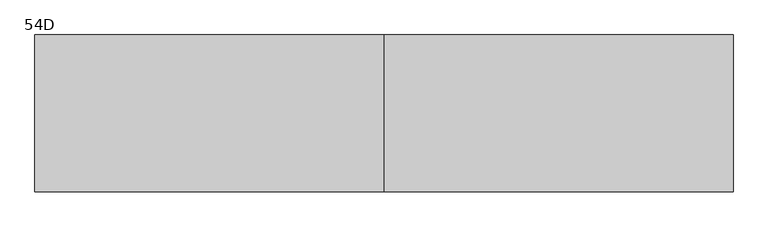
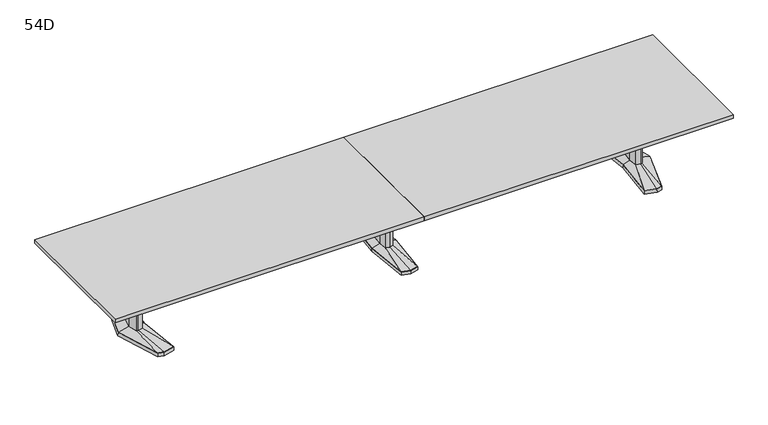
"""IFC4 building model written with IfcOpenShell, lengths in millimetres: furniture geometry, Coalesse_AM_Table_Conference_ETable2_Rectangular_20ft_AluminiumBase : 54D."""

from ifc_helpers import new_model, si_unit, frame, origin, place, context, project, spatial, polyline, outline, extrude, faceted_brep, source, transform, mapped, element, save
from ifc_brep_helpers import plane_surface, spline_surface, advanced_brep


def furniture_54d_72e88866(model_context):
    return source(origin(), model_context, "Body", "SolidModel", [
        faceted_brep([(-81.2333791, -433.8053819, 38.1), (0.0, -455.556576, 38.1), (81.2333791, -433.8053819, 38.1), (119.0564774, 0.0, 38.1), (81.2333791, 433.8053819, 38.1), (0.0, 455.556576, 38.1), (-81.2333791, 433.8053819, 38.1), (-119.0564774, 0.0, 38.1), (-82.7182795, -435.0512063, 3.175), (-120.65, 0.0, 3.175), (-82.7182795, 435.0512063, 3.175), (0.0, 457.2, 3.175), (82.7182795, 435.0512063, 3.175), (120.65, 0.0, 3.175), (82.7182795, -435.0512063, 3.175), (0.0, -457.2, 3.175), (0.0, 429.2617927, 3.175), (-77.9676806, 408.3850278, 3.175), (-74.7019821, 382.9646737, 3.175), (0.0, 402.9670094, 3.175), (74.7019821, 382.9646737, 3.175), (77.9676806, 408.3850278, 3.175), (0.0, -429.2617927, 3.175), (77.9676806, -408.3850278, 3.175), (74.7019821, -382.9646737, 3.175), (0.0, -402.9670094, 3.175), (-74.7019821, -382.9646737, 3.175), (-77.9676806, -408.3850278, 3.175), (-71.8574262, 114.6326257, 3.175), (-82.5426076, 0.0, 3.175), (-71.8574262, -114.6326257, 3.175), (0.0, -133.8761372, 3.175), (71.8574262, -114.6326257, 3.175), (82.5426076, 0.0, 3.175), (71.8574262, 114.6326257, 3.175), (0.0, 133.8761372, 3.175), (0.0, 429.2617927, 0.0), (77.9676806, 408.3850278, 0.0), (74.7019821, 382.9646737, 0.0), (0.0, 402.9670094, 0.0), (-74.7019821, 382.9646737, 0.0), (-77.9676806, 408.3850278, 0.0), (0.0, -429.2617927, 0.0), (-77.9676806, -408.3850278, 0.0), (-74.7019821, -382.9646737, 0.0), (0.0, -402.9670094, 0.0), (74.7019821, -382.9646737, 0.0), (77.9676806, -408.3850278, 0.0), (-71.8574262, 114.6326257, 0.0), (0.0, 133.8761372, 0.0), (71.8574262, 114.6326257, 0.0), (82.5426076, 0.0, 0.0), (71.8574262, -114.6326257, 0.0), (0.0, -133.8761372, 0.0), (-71.8574262, -114.6326257, 0.0), (-82.5426076, 0.0, 0.0)], [[[0, 1, 2, 3, 4, 5, 6, 7]], [[8, 9, 10, 11, 12, 13, 14, 15], [16, 17, 18, 19, 20, 21], [22, 23, 24, 25, 26, 27], [28, 29, 30, 31, 32, 33, 34, 35]], [[1, 0, 8, 15]], [[2, 1, 15, 14]], [[3, 2, 14, 13]], [[4, 3, 13, 12]], [[5, 4, 12, 11]], [[6, 5, 11, 10]], [[7, 6, 10, 9]], [[0, 7, 9, 8]], [[36, 37, 38, 39, 40, 41]], [[42, 43, 44, 45, 46, 47]], [[48, 49, 50, 51, 52, 53, 54, 55]], [[36, 41, 17, 16]], [[41, 40, 18, 17]], [[40, 39, 19, 18]], [[39, 38, 20, 19]], [[38, 37, 21, 20]], [[37, 36, 16, 21]], [[42, 47, 23, 22]], [[47, 46, 24, 23]], [[46, 45, 25, 24]], [[45, 44, 26, 25]], [[44, 43, 27, 26]], [[43, 42, 22, 27]], [[48, 55, 29, 28]], [[55, 54, 30, 29]], [[54, 53, 31, 30]], [[53, 52, 32, 31]], [[52, 51, 33, 32]], [[51, 50, 34, 33]], [[50, 49, 35, 34]], [[49, 48, 28, 35]]]),
        faceted_brep([(-36.3832834, 84.6900825, 698.5), (-44.2774487, 0.0, 698.5), (-36.3832834, -84.6900825, 698.5), (0.0, -94.4335728, 698.5), (36.3832834, -84.6900825, 698.5), (44.2774487, 0.0, 698.5), (36.3832834, 84.6900825, 698.5), (0.0, 94.4335728, 698.5), (-36.3832834, 84.6900825, 63.5), (0.0, 94.4335728, 63.5), (36.3832834, 84.6900825, 63.5), (44.2774487, 0.0, 63.5), (36.3832834, -84.6900825, 63.5), (0.0, -94.4335728, 63.5), (-36.3832834, -84.6900825, 63.5), (-44.2774487, 0.0, 63.5)], [[[0, 1, 2, 3, 4, 5, 6, 7]], [[8, 9, 10, 11, 12, 13, 14, 15]], [[1, 0, 8, 15]], [[2, 1, 15, 14]], [[3, 2, 14, 13]], [[4, 3, 13, 12]], [[5, 4, 12, 11]], [[6, 5, 11, 10]], [[7, 6, 10, 9]], [[0, 7, 9, 8]]]),
        advanced_brep(
        [(-36.3832834, 84.6900825, 63.5), (-44.2774487, 0.0, 63.5), (-36.3832834, -84.6900825, 63.5), (0.0, -94.4335728, 63.5), (36.3832834, -84.6900825, 63.5), (44.2774487, 0.0, 63.5), (36.3832834, 84.6900825, 63.5), (0.0, 94.4335728, 63.5), (-81.2333791, 433.8053819, 38.1), (0.0, 455.556576, 38.1), (81.2333791, 433.8053819, 38.1), (119.0564774, 0.0, 38.1), (81.2333791, -433.8053819, 38.1), (0.0, -455.556576, 38.1), (-81.2333791, -433.8053819, 38.1), (-119.0564774, 0.0, 38.1)],
        [
            (0, 1),
            (1, 2),
            (2, 3),
            (3, 4),
            (4, 5),
            (5, 6),
            (6, 7),
            (7, 0),
            (8, 9),
            (9, 10),
            (10, 11),
            (11, 12),
            (12, 13),
            (13, 14),
            (14, 15),
            (15, 8),
            (15, 1),
            (0, 8),
            (14, 2),
            (13, 3),
            (12, 4),
            (11, 5),
            (10, 6),
            (9, 7),
        ],
        [
            plane_surface(frame((0.0, 0.0, 63.5), z_axis=(0.0, 0.0, 1.0000000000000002), x_axis=(-0.9659615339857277, -0.25868574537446, 0.0))),
            plane_surface(frame((0.0, 0.0, 38.1), z_axis=(0.0, 0.0, -1.0000000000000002), x_axis=(-0.9659615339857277, -0.25868574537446, 0.0))),
            spline_surface(1, 1, [[(-81.2333791, 433.8053819, 38.1), (-36.3832834, 84.6900825, 63.5)], [(-119.0564774, 0.0, 38.1), (-44.2774487, 0.0, 63.5)]], [2, 2], [2, 2], [0.0, 1.0], [0.0, 1.0]),
            spline_surface(1, 1, [[(-119.0564774, 0.0, 38.1), (-44.2774487, 0.0, 63.5)], [(-81.2333791, -433.8053819, 38.1), (-36.3832834, -84.6900825, 63.5)]], [2, 2], [2, 2], [0.0, 1.0], [0.0, 1.0]),
            spline_surface(1, 1, [[(-81.2333791, -433.8053819, 38.1), (-36.3832834, -84.6900825, 63.5)], [(0.0, -455.556576, 38.1), (0.0, -94.4335728, 63.5)]], [2, 2], [2, 2], [0.0, 1.0], [0.0, 1.0]),
            spline_surface(1, 1, [[(0.0, -455.556576, 38.1), (0.0, -94.4335728, 63.5)], [(81.2333791, -433.8053819, 38.1), (36.3832834, -84.6900825, 63.5)]], [2, 2], [2, 2], [0.0, 1.0], [0.0, 1.0]),
            spline_surface(1, 1, [[(81.2333791, -433.8053819, 38.1), (36.3832834, -84.6900825, 63.5)], [(119.0564774, 0.0, 38.1), (44.2774487, 0.0, 63.5)]], [2, 2], [2, 2], [0.0, 1.0], [0.0, 1.0]),
            spline_surface(1, 1, [[(119.0564774, 0.0, 38.1), (44.2774487, 0.0, 63.5)], [(81.2333791, 433.8053819, 38.1), (36.3832834, 84.6900825, 63.5)]], [2, 2], [2, 2], [0.0, 1.0], [0.0, 1.0]),
            spline_surface(1, 1, [[(81.2333791, 433.8053819, 38.1), (36.3832834, 84.6900825, 63.5)], [(0.0, 455.556576, 38.1), (0.0, 94.4335728, 63.5)]], [2, 2], [2, 2], [0.0, 1.0], [0.0, 1.0]),
            spline_surface(1, 1, [[(0.0, 455.556576, 38.1), (0.0, 94.4335728, 63.5)], [(-81.2333791, 433.8053819, 38.1), (-36.3832834, 84.6900825, 63.5)]], [2, 2], [2, 2], [0.0, 1.0], [0.0, 1.0]),
        ],
        [
            (0, [[1, 2, 3, 4, 5, 6, 7, 8]]),
            (1, [[9, 10, 11, 12, 13, 14, 15, 16]]),
            (2, [[-16, 17, -1, 18]]),
            (3, [[-15, 19, -2, -17]]),
            (4, [[-14, 20, -3, -19]]),
            (5, [[-13, 21, -4, -20]]),
            (6, [[-12, 22, -5, -21]]),
            (7, [[-11, 23, -6, -22]]),
            (8, [[-10, 24, -7, -23]]),
            (9, [[-9, -18, -8, -24]]),
        ],
    ),
        faceted_brep([(2429.8306835, 455.5848221, 38.1), (2320.2531277, 426.2263816, 38.1), (2361.4163717, 0.0, 38.1), (2320.2531277, -426.2263816, 38.1), (2429.8306835, -455.5848221, 38.1), (2485.9570396, -440.5478297, 38.1), (2623.2684269, 0.0, 38.1), (2485.9570396, 440.5478297, 38.1), (2429.8306754, 457.2283104, 3.175), (2487.2124472, 441.8549756, 3.175), (2624.93125, 0.0, 3.175), (2487.2124472, -441.8549756, 3.175), (2429.8306754, -457.2283104, 3.175), (2318.54375, -427.4118891, 3.175), (2359.8214856, 0.0, 3.175), (2318.54375, 427.4118891, 3.175), (2433.420115, 428.3273875, 3.175), (2328.3718228, 402.1057253, 3.175), (2336.490518, 377.985069, 3.175), (2437.0095466, 401.0699529, 3.175), (2487.5691725, 387.524361, 3.175), (2486.7631061, 414.0360954, 3.175), (2433.420115, -428.3273875, 3.175), (2486.7631061, -414.0360954, 3.175), (2487.5691725, -387.524361, 3.175), (2437.0095466, -401.0699529, 3.175), (2336.490518, -377.985069, 3.175), (2328.3718228, -402.1057253, 3.175), (2560.0153621, 0.0, 3.175), (2527.7459611, 120.4193755, 3.175), (2479.0987222, 133.471665, 3.175), (2399.2180526, 119.4176561, 3.175), (2388.0868466, 0.0, 3.175), (2399.2180526, -119.4176561, 3.175), (2479.0987222, -133.471665, 3.175), (2527.7459611, -120.4193755, 3.175), (2433.420115, 428.3273875, 0.0), (2486.7631061, 414.0360954, 0.0), (2487.5691725, 387.524361, 0.0), (2437.0095466, 401.0699529, 0.0), (2336.490518, 377.985069, 0.0), (2328.3718228, 402.1057253, 0.0), (2433.420115, -428.3273875, 0.0), (2328.3718228, -402.1057253, 0.0), (2336.490518, -377.985069, 0.0), (2437.0095466, -401.0699529, 0.0), (2487.5691725, -387.524361, 0.0), (2486.7631061, -414.0360954, 0.0), (2560.0153621, 0.0, 0.0), (2527.7459611, -120.4193755, 0.0), (2479.0987222, -133.471665, 0.0), (2399.2180526, -119.4176561, 0.0), (2388.0868466, 0.0, 0.0), (2399.2180526, 119.4176561, 0.0), (2479.0987222, 133.471665, 0.0), (2527.7459611, 120.4193755, 0.0)], [[[0, 1, 2, 3, 4, 5, 6, 7]], [[8, 9, 10, 11, 12, 13, 14, 15], [16, 17, 18, 19, 20, 21], [22, 23, 24, 25, 26, 27], [28, 29, 30, 31, 32, 33, 34, 35]], [[7, 9, 8, 0]], [[6, 10, 9, 7]], [[5, 11, 10, 6]], [[4, 12, 11, 5]], [[3, 13, 12, 4]], [[2, 14, 13, 3]], [[1, 15, 14, 2]], [[0, 8, 15, 1]], [[36, 37, 38, 39, 40, 41]], [[42, 43, 44, 45, 46, 47]], [[48, 49, 50, 51, 52, 53, 54, 55]], [[36, 16, 21, 37]], [[37, 21, 20, 38]], [[38, 20, 19, 39]], [[39, 19, 18, 40]], [[40, 18, 17, 41]], [[41, 17, 16, 36]], [[42, 22, 27, 43]], [[43, 27, 26, 44]], [[44, 26, 25, 45]], [[45, 25, 24, 46]], [[46, 24, 23, 47]], [[47, 23, 22, 42]], [[48, 28, 35, 49]], [[49, 35, 34, 50]], [[50, 34, 33, 51]], [[51, 33, 32, 52]], [[52, 32, 31, 53]], [[53, 31, 30, 54]], [[54, 30, 29, 55]], [[55, 29, 28, 48]]]),
        faceted_brep([(2520.5710836, 0.0, 698.5), (2496.6358546, 89.3188359, 698.5), (2479.7824984, 93.8406728, 698.5), (2477.3826511, 94.4845635, 698.5), (2434.455146, 86.9320037, 698.5), (2426.3520056, 0.0, 698.5), (2434.455146, -86.9320037, 698.5), (2477.3826511, -94.4845635, 698.5), (2479.7824984, -93.8406728, 698.5), (2496.6358546, -89.3188359, 698.5), (2520.5710836, 0.0, 63.5), (2496.6358546, -89.3188359, 63.5), (2479.7824984, -93.8406728, 63.5), (2477.3826511, -94.4845635, 63.5), (2434.455146, -86.9320037, 63.5), (2426.3520056, 0.0, 63.5), (2434.455146, 86.9320037, 63.5), (2477.3826511, 94.4845635, 63.5), (2479.7824984, 93.8406728, 63.5), (2496.6358546, 89.3188359, 63.5)], [[[0, 1, 2, 3, 4, 5, 6, 7, 8, 9]], [[10, 11, 12, 13, 14, 15, 16, 17, 18, 19]], [[9, 11, 10, 0]], [[8, 12, 11, 9]], [[7, 13, 12, 8]], [[6, 14, 13, 7]], [[5, 15, 14, 6]], [[4, 16, 15, 5]], [[3, 17, 16, 4]], [[2, 18, 17, 3]], [[1, 19, 18, 2]], [[0, 10, 19, 1]]]),
        advanced_brep(
        [(2477.3826511, 94.4845635, 63.5), (2434.455146, 86.9320037, 63.5), (2426.3520056, 0.0, 63.5), (2434.455146, -86.9320037, 63.5), (2477.3826511, -94.4845635, 63.5), (2496.6358546, -89.3188359, 63.5), (2520.5710836, 0.0, 63.5), (2496.6358546, 89.3188359, 63.5), (2429.8306835, 455.5848221, 38.1), (2485.9570396, 440.5478297, 38.1), (2623.2684269, 0.0, 38.1), (2485.9570396, -440.5478297, 38.1), (2429.8306835, -455.5848221, 38.1), (2320.2531277, -426.2263816, 38.1), (2361.4163717, 0.0, 38.1), (2320.2531277, 426.2263816, 38.1)],
        [
            (0, 1),
            (1, 2),
            (2, 3),
            (3, 4),
            (4, 5),
            (5, 6),
            (6, 7),
            (7, 0),
            (8, 9),
            (9, 10),
            (10, 11),
            (11, 12),
            (12, 13),
            (13, 14),
            (14, 15),
            (15, 8),
            (8, 0),
            (7, 9),
            (6, 10),
            (5, 11),
            (4, 12),
            (3, 13),
            (2, 14),
            (1, 15),
        ],
        [
            plane_surface(frame((2470.4837991, 0.0, 63.5), z_axis=(0.0, 0.0, 1.0), x_axis=(-0.25884244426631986, -0.9659195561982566, 0.0))),
            plane_surface(frame((2432.0958125, 0.0, 38.1), z_axis=(0.0, 0.0, -1.0), x_axis=(-0.25884244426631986, -0.9659195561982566, 0.0))),
            spline_surface(1, 1, [[(2429.8306835, 455.5848221, 38.1), (2485.9570396, 440.5478297, 38.1)], [(2477.3826511, 94.4845635, 63.5), (2496.6358546, 89.3188359, 63.5)]], [2, 2], [2, 2], [0.0, 1.0], [0.0, 1.0]),
            spline_surface(1, 1, [[(2485.9570396, 440.5478297, 38.1), (2623.2684269, 0.0, 38.1)], [(2496.6358546, 89.3188359, 63.5), (2520.5710836, 0.0, 63.5)]], [2, 2], [2, 2], [0.0, 1.0], [0.0, 1.0]),
            spline_surface(1, 1, [[(2623.2684269, 0.0, 38.1), (2485.9570396, -440.5478297, 38.1)], [(2520.5710836, 0.0, 63.5), (2496.6358546, -89.3188359, 63.5)]], [2, 2], [2, 2], [0.0, 1.0], [0.0, 1.0]),
            spline_surface(1, 1, [[(2485.9570396, -440.5478297, 38.1), (2429.8306835, -455.5848221, 38.1)], [(2496.6358546, -89.3188359, 63.5), (2477.3826511, -94.4845635, 63.5)]], [2, 2], [2, 2], [0.0, 1.0], [0.0, 1.0]),
            spline_surface(1, 1, [[(2429.8306835, -455.5848221, 38.1), (2320.2531277, -426.2263816, 38.1)], [(2477.3826511, -94.4845635, 63.5), (2434.455146, -86.9320037, 63.5)]], [2, 2], [2, 2], [0.0, 1.0], [0.0, 1.0]),
            spline_surface(1, 1, [[(2320.2531277, -426.2263816, 38.1), (2361.4163717, 0.0, 38.1)], [(2434.455146, -86.9320037, 63.5), (2426.3520056, 0.0, 63.5)]], [2, 2], [2, 2], [0.0, 1.0], [0.0, 1.0]),
            spline_surface(1, 1, [[(2361.4163717, 0.0, 38.1), (2320.2531277, 426.2263816, 38.1)], [(2426.3520056, 0.0, 63.5), (2434.455146, 86.9320037, 63.5)]], [2, 2], [2, 2], [0.0, 1.0], [0.0, 1.0]),
            spline_surface(1, 1, [[(2320.2531277, 426.2263816, 38.1), (2429.8306835, 455.5848221, 38.1)], [(2434.455146, 86.9320037, 63.5), (2477.3826511, 94.4845635, 63.5)]], [2, 2], [2, 2], [0.0, 1.0], [0.0, 1.0]),
        ],
        [
            (0, [[1, 2, 3, 4, 5, 6, 7, 8]]),
            (1, [[9, 10, 11, 12, 13, 14, 15, 16]]),
            (2, [[17, -8, 18, -9]]),
            (3, [[-18, -7, 19, -10]]),
            (4, [[-19, -6, 20, -11]]),
            (5, [[-20, -5, 21, -12]]),
            (6, [[-21, -4, 22, -13]]),
            (7, [[-22, -3, 23, -14]]),
            (8, [[-23, -2, 24, -15]]),
            (9, [[-24, -1, -17, -16]]),
        ],
    ),
        faceted_brep([(-2429.8306835, 455.5848221, 38.1), (-2485.9570396, 440.5478297, 38.1), (-2623.2684269, 0.0, 38.1), (-2485.9570396, -440.5478297, 38.1), (-2429.8306835, -455.5848221, 38.1), (-2320.2531277, -426.2263816, 38.1), (-2361.4163717, 0.0, 38.1), (-2320.2531277, 426.2263816, 38.1), (-2429.8306754, 457.2283104, 3.175), (-2318.54375, 427.4118891, 3.175), (-2359.8214856, 0.0, 3.175), (-2318.54375, -427.4118891, 3.175), (-2429.8306754, -457.2283104, 3.175), (-2487.2124472, -441.8549756, 3.175), (-2624.93125, 0.0, 3.175), (-2487.2124472, 441.8549756, 3.175), (-2433.420115, 428.3273875, 3.175), (-2486.7631061, 414.0360954, 3.175), (-2487.5691725, 387.524361, 3.175), (-2437.0095466, 401.0699529, 3.175), (-2336.490518, 377.985069, 3.175), (-2328.3718228, 402.1057253, 3.175), (-2433.420115, -428.3273875, 3.175), (-2328.3718228, -402.1057253, 3.175), (-2336.490518, -377.985069, 3.175), (-2437.0095466, -401.0699529, 3.175), (-2487.5691725, -387.524361, 3.175), (-2486.7631061, -414.0360954, 3.175), (-2560.0153621, 0.0, 3.175), (-2527.7459611, -120.4193755, 3.175), (-2479.0987222, -133.471665, 3.175), (-2399.2180526, -119.4176561, 3.175), (-2388.0868466, 0.0, 3.175), (-2399.2180526, 119.4176561, 3.175), (-2479.0987222, 133.471665, 3.175), (-2527.7459611, 120.4193755, 3.175), (-2433.420115, 428.3273875, 0.0), (-2328.3718228, 402.1057253, 0.0), (-2336.490518, 377.985069, 0.0), (-2437.0095466, 401.0699529, 0.0), (-2487.5691725, 387.524361, 0.0), (-2486.7631061, 414.0360954, 0.0), (-2433.420115, -428.3273875, 0.0), (-2486.7631061, -414.0360954, 0.0), (-2487.5691725, -387.524361, 0.0), (-2437.0095466, -401.0699529, 0.0), (-2336.490518, -377.985069, 0.0), (-2328.3718228, -402.1057253, 0.0), (-2560.0153621, 0.0, 0.0), (-2527.7459611, 120.4193755, 0.0), (-2479.0987222, 133.471665, 0.0), (-2399.2180526, 119.4176561, 0.0), (-2388.0868466, 0.0, 0.0), (-2399.2180526, -119.4176561, 0.0), (-2479.0987222, -133.471665, 0.0), (-2527.7459611, -120.4193755, 0.0)], [[[0, 1, 2, 3, 4, 5, 6, 7]], [[8, 9, 10, 11, 12, 13, 14, 15], [16, 17, 18, 19, 20, 21], [22, 23, 24, 25, 26, 27], [28, 29, 30, 31, 32, 33, 34, 35]], [[1, 0, 8, 15]], [[2, 1, 15, 14]], [[3, 2, 14, 13]], [[4, 3, 13, 12]], [[5, 4, 12, 11]], [[6, 5, 11, 10]], [[7, 6, 10, 9]], [[0, 7, 9, 8]], [[36, 37, 38, 39, 40, 41]], [[42, 43, 44, 45, 46, 47]], [[48, 49, 50, 51, 52, 53, 54, 55]], [[36, 41, 17, 16]], [[41, 40, 18, 17]], [[40, 39, 19, 18]], [[39, 38, 20, 19]], [[38, 37, 21, 20]], [[37, 36, 16, 21]], [[42, 47, 23, 22]], [[47, 46, 24, 23]], [[46, 45, 25, 24]], [[45, 44, 26, 25]], [[44, 43, 27, 26]], [[43, 42, 22, 27]], [[48, 55, 29, 28]], [[55, 54, 30, 29]], [[54, 53, 31, 30]], [[53, 52, 32, 31]], [[52, 51, 33, 32]], [[51, 50, 34, 33]], [[50, 49, 35, 34]], [[49, 48, 28, 35]]]),
        faceted_brep([(-2520.5710836, 0.0, 698.5), (-2496.6358546, -89.3188359, 698.5), (-2479.7824984, -93.8406728, 698.5), (-2477.3826511, -94.4845635, 698.5), (-2434.455146, -86.9320037, 698.5), (-2426.3520056, 0.0, 698.5), (-2434.455146, 86.9320037, 698.5), (-2477.3826511, 94.4845635, 698.5), (-2479.7824984, 93.8406728, 698.5), (-2496.6358546, 89.3188359, 698.5), (-2520.5710836, 0.0, 63.5), (-2496.6358546, 89.3188359, 63.5), (-2479.7824984, 93.8406728, 63.5), (-2477.3826511, 94.4845635, 63.5), (-2434.455146, 86.9320037, 63.5), (-2426.3520056, 0.0, 63.5), (-2434.455146, -86.9320037, 63.5), (-2477.3826511, -94.4845635, 63.5), (-2479.7824984, -93.8406728, 63.5), (-2496.6358546, -89.3188359, 63.5)], [[[0, 1, 2, 3, 4, 5, 6, 7, 8, 9]], [[10, 11, 12, 13, 14, 15, 16, 17, 18, 19]], [[1, 0, 10, 19]], [[2, 1, 19, 18]], [[3, 2, 18, 17]], [[4, 3, 17, 16]], [[5, 4, 16, 15]], [[6, 5, 15, 14]], [[7, 6, 14, 13]], [[8, 7, 13, 12]], [[9, 8, 12, 11]], [[0, 9, 11, 10]]]),
        advanced_brep(
        [(-2477.3826511, 94.4845635, 63.5), (-2496.6358546, 89.3188359, 63.5), (-2520.5710836, 0.0, 63.5), (-2496.6358546, -89.3188359, 63.5), (-2477.3826511, -94.4845635, 63.5), (-2434.455146, -86.9320037, 63.5), (-2426.3520056, 0.0, 63.5), (-2434.455146, 86.9320037, 63.5), (-2429.8306835, 455.5848221, 38.1), (-2320.2531277, 426.2263816, 38.1), (-2361.4163717, 0.0, 38.1), (-2320.2531277, -426.2263816, 38.1), (-2429.8306835, -455.5848221, 38.1), (-2485.9570396, -440.5478297, 38.1), (-2623.2684269, 0.0, 38.1), (-2485.9570396, 440.5478297, 38.1)],
        [
            (0, 1),
            (1, 2),
            (2, 3),
            (3, 4),
            (4, 5),
            (5, 6),
            (6, 7),
            (7, 0),
            (8, 9),
            (9, 10),
            (10, 11),
            (11, 12),
            (12, 13),
            (13, 14),
            (14, 15),
            (15, 8),
            (15, 1),
            (0, 8),
            (14, 2),
            (13, 3),
            (12, 4),
            (11, 5),
            (10, 6),
            (9, 7),
        ],
        [
            plane_surface(frame((-2470.4837991, 0.0, 63.5), z_axis=(0.0, 0.0, 1.0), x_axis=(0.25884244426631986, -0.9659195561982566, 0.0))),
            plane_surface(frame((-2432.0958125, 0.0, 38.1), z_axis=(0.0, 0.0, -1.0), x_axis=(0.25884244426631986, -0.9659195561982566, 0.0))),
            spline_surface(1, 1, [[(-2429.8306835, 455.5848221, 38.1), (-2477.3826511, 94.4845635, 63.5)], [(-2485.9570396, 440.5478297, 38.1), (-2496.6358546, 89.3188359, 63.5)]], [2, 2], [2, 2], [0.0, 1.0], [0.0, 1.0]),
            spline_surface(1, 1, [[(-2485.9570396, 440.5478297, 38.1), (-2496.6358546, 89.3188359, 63.5)], [(-2623.2684269, 0.0, 38.1), (-2520.5710836, 0.0, 63.5)]], [2, 2], [2, 2], [0.0, 1.0], [0.0, 1.0]),
            spline_surface(1, 1, [[(-2623.2684269, 0.0, 38.1), (-2520.5710836, 0.0, 63.5)], [(-2485.9570396, -440.5478297, 38.1), (-2496.6358546, -89.3188359, 63.5)]], [2, 2], [2, 2], [0.0, 1.0], [0.0, 1.0]),
            spline_surface(1, 1, [[(-2485.9570396, -440.5478297, 38.1), (-2496.6358546, -89.3188359, 63.5)], [(-2429.8306835, -455.5848221, 38.1), (-2477.3826511, -94.4845635, 63.5)]], [2, 2], [2, 2], [0.0, 1.0], [0.0, 1.0]),
            spline_surface(1, 1, [[(-2429.8306835, -455.5848221, 38.1), (-2477.3826511, -94.4845635, 63.5)], [(-2320.2531277, -426.2263816, 38.1), (-2434.455146, -86.9320037, 63.5)]], [2, 2], [2, 2], [0.0, 1.0], [0.0, 1.0]),
            spline_surface(1, 1, [[(-2320.2531277, -426.2263816, 38.1), (-2434.455146, -86.9320037, 63.5)], [(-2361.4163717, 0.0, 38.1), (-2426.3520056, 0.0, 63.5)]], [2, 2], [2, 2], [0.0, 1.0], [0.0, 1.0]),
            spline_surface(1, 1, [[(-2361.4163717, 0.0, 38.1), (-2426.3520056, 0.0, 63.5)], [(-2320.2531277, 426.2263816, 38.1), (-2434.455146, 86.9320037, 63.5)]], [2, 2], [2, 2], [0.0, 1.0], [0.0, 1.0]),
            spline_surface(1, 1, [[(-2320.2531277, 426.2263816, 38.1), (-2434.455146, 86.9320037, 63.5)], [(-2429.8306835, 455.5848221, 38.1), (-2477.3826511, 94.4845635, 63.5)]], [2, 2], [2, 2], [0.0, 1.0], [0.0, 1.0]),
        ],
        [
            (0, [[1, 2, 3, 4, 5, 6, 7, 8]]),
            (1, [[9, 10, 11, 12, 13, 14, 15, 16]]),
            (2, [[-16, 17, -1, 18]]),
            (3, [[-15, 19, -2, -17]]),
            (4, [[-14, 20, -3, -19]]),
            (5, [[-13, 21, -4, -20]]),
            (6, [[-12, 22, -5, -21]]),
            (7, [[-11, 23, -6, -22]]),
            (8, [[-10, 24, -7, -23]]),
            (9, [[-9, -18, -8, -24]]),
        ],
    ),
        extrude(outline(polyline([(96.8375, 698.5), (103.1875, 698.5), (103.1875, 476.25), (-103.1875, 476.25), (-103.1875, 698.5), (-96.8375, 698.5), (-96.8375, 482.6), (96.8375, 482.6), (96.8375, 698.5)])), frame((44.2774487, 0.0, 0.0), z_axis=(1.0, 0.0, 0.0), x_axis=(0.0, 1.0, 0.0)), (0.0, 0.0, 1.0), 2382.2163013),
        extrude(outline(polyline([(3048.0, 685.8), (3048.0, -685.8), (0.0, -685.8), (0.0, 685.8), (3048.0, 685.8)])), frame((0.0, 0.0, 698.5), z_axis=(0.0, 0.0, 1.0), x_axis=(1.0, 0.0, 0.0)), (0.0, 0.0, 1.0), 38.1),
        extrude(outline(polyline([(0.0, 685.8), (0.0, -685.8), (-3048.0, -685.8), (-3048.0, 685.8), (0.0, 685.8)])), frame((0.0, 0.0, 698.5), z_axis=(0.0, 0.0, 1.0), x_axis=(1.0, 0.0, 0.0)), (0.0, 0.0, 1.0), 38.1),
        extrude(outline(polyline([(96.8375, 698.5), (103.1875, 698.5), (103.1875, 476.25), (-103.1875, 476.25), (-103.1875, 698.5), (-96.8375, 698.5), (-96.8375, 482.6), (96.8375, 482.6), (96.8375, 698.5)])), frame((-2426.49375, 0.0, 0.0), z_axis=(1.0, 0.0, 0.0), x_axis=(0.0, 1.0, 0.0)), (0.0, 0.0, 1.0), 2382.2163013),
    ])


if __name__ == "__main__":
    model = new_model("IFC4")
    model_context = context("Model", 3, world=origin())
    ifc_project = project(units=[si_unit("LENGTHUNIT", "METRE", prefix="MILLI")], contexts=[model_context])
    site = spatial("IfcSite", under=ifc_project)
    building = spatial("IfcBuilding", under=site)
    placement = place(None, origin())
    furniture_54d_shape = furniture_54d_72e88866(model_context)
    element("IfcFurniture", 1, ObjectType="Coalesse_AM_Table_Conference_ETable2_Rectangular_20ft_AluminiumBase : 54D", at=placement, inside=building, context=model_context, shape_type="MappedRepresentation", body=[
        mapped(furniture_54d_shape, transform((0.0, 0.0, 0.0), x_axis=(1.0, 0.0, 0.0), y_axis=(0.0, 1.0, 0.0), z_axis=(0.0, 0.0, 1.0))),
    ])
    save(model, "model.ifc")
